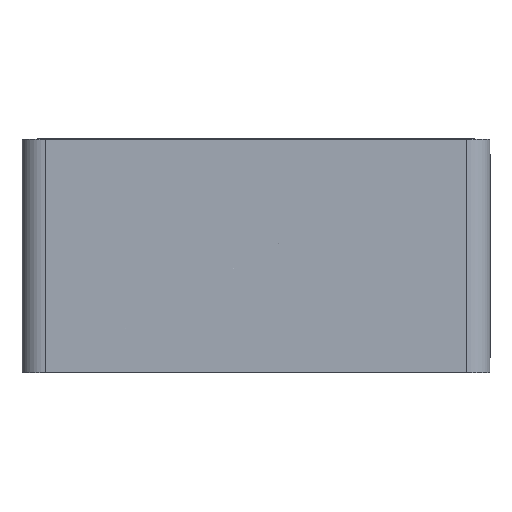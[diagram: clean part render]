
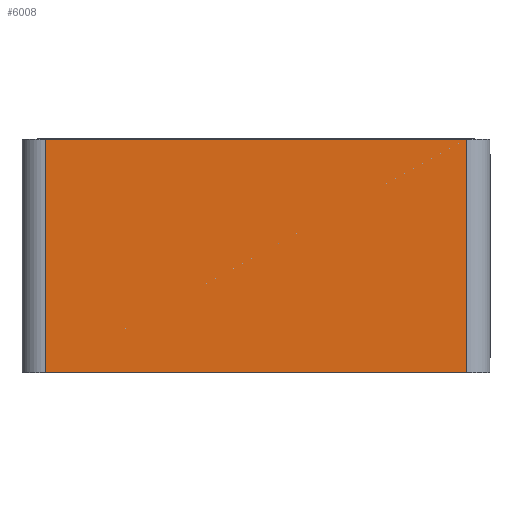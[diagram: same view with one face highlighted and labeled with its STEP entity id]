
A CAD part, front view. The second image highlights one B-rep face of the part: STEP entity #6008.
In plain terms, the highlighted planar face has unit normal (0, -1, 0).
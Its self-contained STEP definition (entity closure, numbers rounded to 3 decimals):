
#14 = DIRECTION ( 'NONE',  ( 0., 1., 0. ) ) ;
#272 = LINE ( 'NONE', #4253, #2938 ) ;
#672 = CARTESIAN_POINT ( 'NONE',  ( 28.5, 0., 15. ) ) ;
#1074 = LINE ( 'NONE', #672, #7087 ) ;
#1935 = FACE_OUTER_BOUND ( 'NONE', #3750, .T. ) ;
#2121 = DIRECTION ( 'NONE',  ( 1., 0., 0. ) ) ;
#2228 = EDGE_CURVE ( 'NONE', #9741, #7531, #272, .T. ) ;
#2526 = VERTEX_POINT ( 'NONE', #8485 ) ;
#2726 = LINE ( 'NONE', #4445, #5081 ) ;
#2778 = DIRECTION ( 'NONE',  ( 1., 0., 0. ) ) ;
#2938 = VECTOR ( 'NONE', #3462, 1000. ) ;
#3306 = CARTESIAN_POINT ( 'NONE',  ( 1.5, 0., 15. ) ) ;
#3462 = DIRECTION ( 'NONE',  ( 0., 0., -1. ) ) ;
#3750 = EDGE_LOOP ( 'NONE', ( #6420, #6208, #9156, #8411 ) ) ;
#3885 = PLANE ( 'NONE',  #9551 ) ;
#4131 = LINE ( 'NONE', #9743, #8066 ) ;
#4253 = CARTESIAN_POINT ( 'NONE',  ( 1.5, 0., 15. ) ) ;
#4445 = CARTESIAN_POINT ( 'NONE',  ( 0., 0., 0. ) ) ;
#4678 = CARTESIAN_POINT ( 'NONE',  ( 0., 0., 15. ) ) ;
#4696 = VERTEX_POINT ( 'NONE', #7640 ) ;
#5081 = VECTOR ( 'NONE', #2121, 1000. ) ;
#5470 = DIRECTION ( 'NONE',  ( 0., 0., 1. ) ) ;
#6008 = ADVANCED_FACE ( 'NONE', ( #1935 ), #3885, .F. ) ;
#6208 = ORIENTED_EDGE ( 'NONE', *, *, #2228, .T. ) ;
#6420 = ORIENTED_EDGE ( 'NONE', *, *, #7430, .F. ) ;
#6893 = DIRECTION ( 'NONE',  ( 0., 0., 1. ) ) ;
#7087 = VECTOR ( 'NONE', #6893, 1000. ) ;
#7430 = EDGE_CURVE ( 'NONE', #9741, #4696, #4131, .T. ) ;
#7493 = EDGE_CURVE ( 'NONE', #2526, #4696, #1074, .T. ) ;
#7531 = VERTEX_POINT ( 'NONE', #9950 ) ;
#7640 = CARTESIAN_POINT ( 'NONE',  ( 28.5, 0., 15. ) ) ;
#8066 = VECTOR ( 'NONE', #2778, 1000. ) ;
#8411 = ORIENTED_EDGE ( 'NONE', *, *, #7493, .T. ) ;
#8485 = CARTESIAN_POINT ( 'NONE',  ( 28.5, 0., 0. ) ) ;
#9092 = EDGE_CURVE ( 'NONE', #7531, #2526, #2726, .T. ) ;
#9156 = ORIENTED_EDGE ( 'NONE', *, *, #9092, .T. ) ;
#9551 = AXIS2_PLACEMENT_3D ( 'NONE', #4678, #14, #5470 ) ;
#9741 = VERTEX_POINT ( 'NONE', #3306 ) ;
#9743 = CARTESIAN_POINT ( 'NONE',  ( 0., 0., 15. ) ) ;
#9950 = CARTESIAN_POINT ( 'NONE',  ( 1.5, 0., 0. ) ) ;
